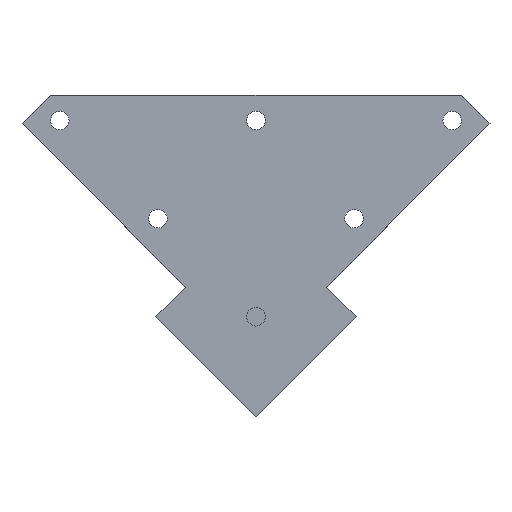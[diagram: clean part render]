
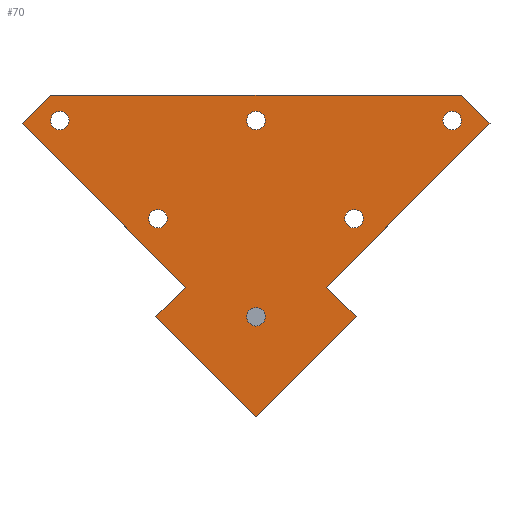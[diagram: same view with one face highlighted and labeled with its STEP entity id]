
A CAD part, top view. The second image highlights one B-rep face of the part: STEP entity #70.
In plain terms, the highlighted planar face has unit normal (0, 0, 1).
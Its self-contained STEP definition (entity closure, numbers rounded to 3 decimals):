
#70 = ADVANCED_FACE( '', ( #158, #159, #160, #161, #162, #163, #164 ), #165, .T. );
#158 = FACE_BOUND( '', #276, .T. );
#159 = FACE_BOUND( '', #277, .T. );
#160 = FACE_BOUND( '', #278, .T. );
#161 = FACE_BOUND( '', #279, .T. );
#162 = FACE_BOUND( '', #280, .T. );
#163 = FACE_BOUND( '', #281, .T. );
#164 = FACE_OUTER_BOUND( '', #282, .T. );
#165 = PLANE( '', #283 );
#276 = EDGE_LOOP( '', ( #416 ) );
#277 = EDGE_LOOP( '', ( #417 ) );
#278 = EDGE_LOOP( '', ( #418 ) );
#279 = EDGE_LOOP( '', ( #419 ) );
#280 = EDGE_LOOP( '', ( #420 ) );
#281 = EDGE_LOOP( '', ( #421 ) );
#282 = EDGE_LOOP( '', ( #422, #423, #424, #425, #426, #427, #428, #429, #430 ) );
#283 = AXIS2_PLACEMENT_3D( '', #431, #432, #433 );
#416 = ORIENTED_EDGE( '', *, *, #642, .F. );
#417 = ORIENTED_EDGE( '', *, *, #643, .F. );
#418 = ORIENTED_EDGE( '', *, *, #639, .F. );
#419 = ORIENTED_EDGE( '', *, *, #633, .F. );
#420 = ORIENTED_EDGE( '', *, *, #636, .F. );
#421 = ORIENTED_EDGE( '', *, *, #644, .F. );
#422 = ORIENTED_EDGE( '', *, *, #645, .T. );
#423 = ORIENTED_EDGE( '', *, *, #613, .T. );
#424 = ORIENTED_EDGE( '', *, *, #646, .T. );
#425 = ORIENTED_EDGE( '', *, *, #647, .T. );
#426 = ORIENTED_EDGE( '', *, *, #648, .T. );
#427 = ORIENTED_EDGE( '', *, *, #649, .T. );
#428 = ORIENTED_EDGE( '', *, *, #650, .T. );
#429 = ORIENTED_EDGE( '', *, *, #620, .T. );
#430 = ORIENTED_EDGE( '', *, *, #651, .T. );
#431 = CARTESIAN_POINT( '', ( 0., 0., 2. ) );
#432 = DIRECTION( '', ( 0., 0., 1. ) );
#433 = DIRECTION( '', ( 1., 0., 0. ) );
#613 = EDGE_CURVE( '', #711, #709, #712, .T. );
#620 = EDGE_CURVE( '', #723, #721, #724, .T. );
#633 = EDGE_CURVE( '', #745, #745, #746, .T. );
#636 = EDGE_CURVE( '', #750, #750, #751, .T. );
#639 = EDGE_CURVE( '', #755, #755, #756, .T. );
#642 = EDGE_CURVE( '', #760, #760, #761, .T. );
#643 = EDGE_CURVE( '', #762, #762, #763, .T. );
#644 = EDGE_CURVE( '', #764, #764, #765, .T. );
#645 = EDGE_CURVE( '', #766, #711, #767, .T. );
#646 = EDGE_CURVE( '', #709, #768, #769, .T. );
#647 = EDGE_CURVE( '', #768, #770, #771, .T. );
#648 = EDGE_CURVE( '', #770, #772, #773, .T. );
#649 = EDGE_CURVE( '', #772, #774, #775, .T. );
#650 = EDGE_CURVE( '', #774, #723, #776, .T. );
#651 = EDGE_CURVE( '', #721, #766, #777, .T. );
#709 = VERTEX_POINT( '', #853 );
#711 = VERTEX_POINT( '', #856 );
#712 = LINE( '', #857, #858 );
#721 = VERTEX_POINT( '', #869 );
#723 = VERTEX_POINT( '', #872 );
#724 = LINE( '', #873, #874 );
#745 = VERTEX_POINT( '', #904 );
#746 = CIRCLE( '', #905, 3.2 );
#750 = VERTEX_POINT( '', #909 );
#751 = CIRCLE( '', #910, 3.2 );
#755 = VERTEX_POINT( '', #914 );
#756 = CIRCLE( '', #915, 3.2 );
#760 = VERTEX_POINT( '', #919 );
#761 = CIRCLE( '', #920, 3.2 );
#762 = VERTEX_POINT( '', #921 );
#763 = CIRCLE( '', #922, 3.2 );
#764 = VERTEX_POINT( '', #923 );
#765 = CIRCLE( '', #924, 3.2 );
#766 = VERTEX_POINT( '', #925 );
#767 = LINE( '', #926, #927 );
#768 = VERTEX_POINT( '', #928 );
#769 = LINE( '', #929, #930 );
#770 = VERTEX_POINT( '', #931 );
#771 = LINE( '', #932, #933 );
#772 = VERTEX_POINT( '', #934 );
#773 = LINE( '', #935, #936 );
#774 = VERTEX_POINT( '', #937 );
#775 = LINE( '', #938, #939 );
#776 = LINE( '', #940, #941 );
#777 = LINE( '', #942, #943 );
#853 = CARTESIAN_POINT( '', ( -24.4, 10.248, 2. ) );
#856 = CARTESIAN_POINT( '', ( -80.966, 66.814, 2. ) );
#857 = CARTESIAN_POINT( '', ( -80.966, 66.814, 2. ) );
#858 = VECTOR( '', #1044, 1000. );
#869 = CARTESIAN_POINT( '', ( 71.06, 76.72, 2. ) );
#872 = CARTESIAN_POINT( '', ( 80.966, 66.814, 2. ) );
#873 = CARTESIAN_POINT( '', ( 80.966, 66.814, 2. ) );
#874 = VECTOR( '', #1051, 1000. );
#904 = CARTESIAN_POINT( '', ( 3.2, 67.88, 2. ) );
#905 = AXIS2_PLACEMENT_3D( '', #1061, #1062, #1063 );
#909 = CARTESIAN_POINT( '', ( 37.14, 33.94, 2. ) );
#910 = AXIS2_PLACEMENT_3D( '', #1067, #1068, #1069 );
#914 = CARTESIAN_POINT( '', ( 3.2, 0., 2. ) );
#915 = AXIS2_PLACEMENT_3D( '', #1073, #1074, #1075 );
#919 = CARTESIAN_POINT( '', ( -64.68, 67.88, 2. ) );
#920 = AXIS2_PLACEMENT_3D( '', #1079, #1080, #1081 );
#921 = CARTESIAN_POINT( '', ( -30.74, 33.94, 2. ) );
#922 = AXIS2_PLACEMENT_3D( '', #1082, #1083, #1084 );
#923 = CARTESIAN_POINT( '', ( 71.08, 67.88, 2. ) );
#924 = AXIS2_PLACEMENT_3D( '', #1085, #1086, #1087 );
#925 = CARTESIAN_POINT( '', ( -71.06, 76.72, 2. ) );
#926 = CARTESIAN_POINT( '', ( -71.06, 76.72, 2. ) );
#927 = VECTOR( '', #1088, 1000. );
#928 = CARTESIAN_POINT( '', ( -34.648, 0., 2. ) );
#929 = CARTESIAN_POINT( '', ( -24.4, 10.248, 2. ) );
#930 = VECTOR( '', #1089, 1000. );
#931 = CARTESIAN_POINT( '', ( 0., -34.648, 2. ) );
#932 = CARTESIAN_POINT( '', ( -34.648, 0., 2. ) );
#933 = VECTOR( '', #1090, 1000. );
#934 = CARTESIAN_POINT( '', ( 34.648, 0., 2. ) );
#935 = CARTESIAN_POINT( '', ( 0., -34.648, 2. ) );
#936 = VECTOR( '', #1091, 1000. );
#937 = CARTESIAN_POINT( '', ( 24.4, 10.248, 2. ) );
#938 = CARTESIAN_POINT( '', ( 34.648, 0., 2. ) );
#939 = VECTOR( '', #1092, 1000. );
#940 = CARTESIAN_POINT( '', ( 24.4, 10.248, 2. ) );
#941 = VECTOR( '', #1093, 1000. );
#942 = CARTESIAN_POINT( '', ( 71.06, 76.72, 2. ) );
#943 = VECTOR( '', #1094, 1000. );
#1044 = DIRECTION( '', ( 0.707, -0.707, 0. ) );
#1051 = DIRECTION( '', ( -0.707, 0.707, 0. ) );
#1061 = CARTESIAN_POINT( '', ( 0., 67.88, 2. ) );
#1062 = DIRECTION( '', ( 0., 0., 1. ) );
#1063 = DIRECTION( '', ( 1., 0., 0. ) );
#1067 = CARTESIAN_POINT( '', ( 33.94, 33.94, 2. ) );
#1068 = DIRECTION( '', ( 0., 0., 1. ) );
#1069 = DIRECTION( '', ( 1., 0., 0. ) );
#1073 = CARTESIAN_POINT( '', ( 0., 0., 2. ) );
#1074 = DIRECTION( '', ( 0., 0., 1. ) );
#1075 = DIRECTION( '', ( 1., 0., 0. ) );
#1079 = CARTESIAN_POINT( '', ( -67.88, 67.88, 2. ) );
#1080 = DIRECTION( '', ( 0., 0., 1. ) );
#1081 = DIRECTION( '', ( 1., 0., 0. ) );
#1082 = CARTESIAN_POINT( '', ( -33.94, 33.94, 2. ) );
#1083 = DIRECTION( '', ( 0., 0., 1. ) );
#1084 = DIRECTION( '', ( 1., 0., 0. ) );
#1085 = CARTESIAN_POINT( '', ( 67.88, 67.88, 2. ) );
#1086 = DIRECTION( '', ( 0., 0., 1. ) );
#1087 = DIRECTION( '', ( 1., 0., 0. ) );
#1088 = DIRECTION( '', ( -0.707, -0.707, 0. ) );
#1089 = DIRECTION( '', ( -0.707, -0.707, 0. ) );
#1090 = DIRECTION( '', ( 0.707, -0.707, 0. ) );
#1091 = DIRECTION( '', ( 0.707, 0.707, 0. ) );
#1092 = DIRECTION( '', ( -0.707, 0.707, 0. ) );
#1093 = DIRECTION( '', ( 0.707, 0.707, 0. ) );
#1094 = DIRECTION( '', ( -1., 0., 0. ) );
